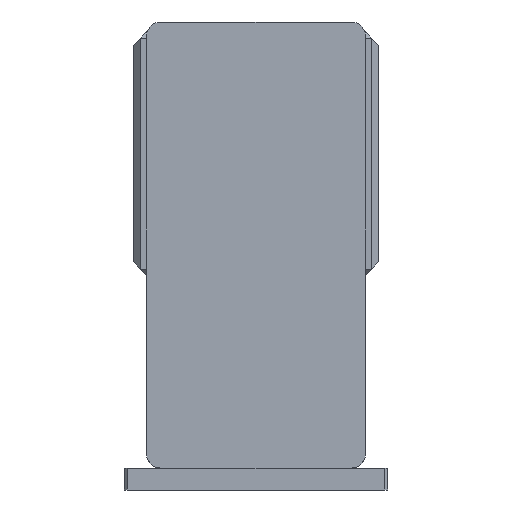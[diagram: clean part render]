
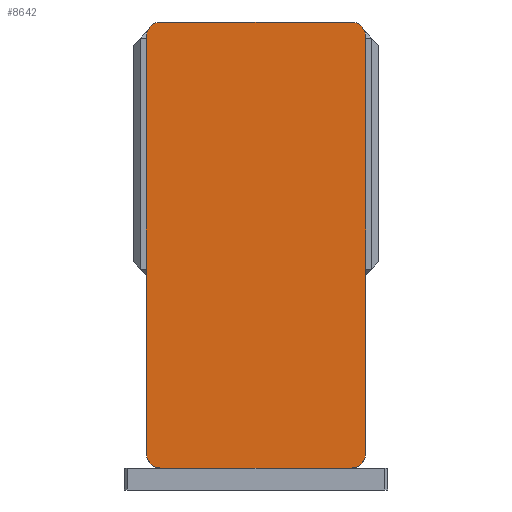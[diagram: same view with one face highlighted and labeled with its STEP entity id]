
A CAD part, left-side view. The second image highlights one B-rep face of the part: STEP entity #8642.
In plain terms, the highlighted planar face has unit normal (-1, 0, 0) as drawn and (0, 0, 1) by its records, which use the part's own axes.
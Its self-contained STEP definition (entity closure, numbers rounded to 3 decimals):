
#319 = CARTESIAN_POINT ( 'NONE',  ( 75., 142.5, 105. ) ) ;
#474 = ORIENTED_EDGE ( 'NONE', *, *, #10151, .T. ) ;
#479 = ORIENTED_EDGE ( 'NONE', *, *, #7839, .T. ) ;
#554 = ORIENTED_EDGE ( 'NONE', *, *, #7234, .T. ) ;
#850 = DIRECTION ( 'NONE',  ( 0., 0., 1. ) ) ;
#915 = VECTOR ( 'NONE', #8945, 1000. ) ;
#1275 = VECTOR ( 'NONE', #8796, 1000. ) ;
#2038 = DIRECTION ( 'NONE',  ( 0., 0., 1. ) ) ;
#2190 = VERTEX_POINT ( 'NONE', #9201 ) ;
#2191 = CARTESIAN_POINT ( 'NONE',  ( -65., -142.5, 105. ) ) ;
#2203 = ORIENTED_EDGE ( 'NONE', *, *, #10451, .T. ) ;
#2256 = ORIENTED_EDGE ( 'NONE', *, *, #10547, .T. ) ;
#2292 = ORIENTED_EDGE ( 'NONE', *, *, #8799, .T. ) ;
#2346 = CIRCLE ( 'NONE', #7860, 10. ) ;
#2707 = VECTOR ( 'NONE', #5500, 1000. ) ;
#2753 = CIRCLE ( 'NONE', #5674, 10. ) ;
#3073 = DIRECTION ( 'NONE',  ( 1., 0., 0. ) ) ;
#3116 = VERTEX_POINT ( 'NONE', #5341 ) ;
#3149 = CARTESIAN_POINT ( 'NONE',  ( 65., -142.5, 105. ) ) ;
#3503 = CARTESIAN_POINT ( 'NONE',  ( 65., -152.5, 105. ) ) ;
#3856 = LINE ( 'NONE', #7934, #1275 ) ;
#4007 = DIRECTION ( 'NONE',  ( 1., 0., 0. ) ) ;
#4228 = DIRECTION ( 'NONE',  ( 0., 0., 1. ) ) ;
#4358 = CIRCLE ( 'NONE', #8346, 10. ) ;
#5024 = VERTEX_POINT ( 'NONE', #6588 ) ;
#5100 = CARTESIAN_POINT ( 'NONE',  ( 65., 152.5, 105. ) ) ;
#5160 = PLANE ( 'NONE',  #9850 ) ;
#5341 = CARTESIAN_POINT ( 'NONE',  ( -75., -142.5, 105. ) ) ;
#5395 = CARTESIAN_POINT ( 'NONE',  ( 75., 152.5, 105. ) ) ;
#5500 = DIRECTION ( 'NONE',  ( -1., 0., 0. ) ) ;
#5518 = LINE ( 'NONE', #6327, #915 ) ;
#5566 = CIRCLE ( 'NONE', #6768, 10. ) ;
#5674 = AXIS2_PLACEMENT_3D ( 'NONE', #9412, #4228, #10230 ) ;
#5713 = VERTEX_POINT ( 'NONE', #3503 ) ;
#5738 = CARTESIAN_POINT ( 'NONE',  ( -75., 142.5, 105. ) ) ;
#5804 = VECTOR ( 'NONE', #7146, 1000. ) ;
#6133 = VERTEX_POINT ( 'NONE', #5100 ) ;
#6327 = CARTESIAN_POINT ( 'NONE',  ( -75., 152.5, 105. ) ) ;
#6345 = ORIENTED_EDGE ( 'NONE', *, *, #9948, .T. ) ;
#6569 = CARTESIAN_POINT ( 'NONE',  ( -65., -152.5, 105. ) ) ;
#6588 = CARTESIAN_POINT ( 'NONE',  ( 75., -142.5, 105. ) ) ;
#6768 = AXIS2_PLACEMENT_3D ( 'NONE', #2191, #8221, #3073 ) ;
#6906 = DIRECTION ( 'NONE',  ( 1., 0., 0. ) ) ;
#7146 = DIRECTION ( 'NONE',  ( 0., 1., 0. ) ) ;
#7216 = CARTESIAN_POINT ( 'NONE',  ( -65., 142.5, 105. ) ) ;
#7234 = EDGE_CURVE ( 'NONE', #5024, #8852, #10117, .T. ) ;
#7315 = LINE ( 'NONE', #9819, #2707 ) ;
#7386 = VERTEX_POINT ( 'NONE', #5738 ) ;
#7607 = EDGE_LOOP ( 'NONE', ( #8516, #6345, #554, #474, #479, #2203, #2292, #2256 ) ) ;
#7703 = FACE_OUTER_BOUND ( 'NONE', #7607, .T. ) ;
#7839 = EDGE_CURVE ( 'NONE', #6133, #2190, #7315, .T. ) ;
#7860 = AXIS2_PLACEMENT_3D ( 'NONE', #3149, #9170, #4007 ) ;
#7934 = CARTESIAN_POINT ( 'NONE',  ( -75., -152.5, 105. ) ) ;
#8084 = DIRECTION ( 'NONE',  ( 1., 0., 0. ) ) ;
#8221 = DIRECTION ( 'NONE',  ( 0., 0., 1. ) ) ;
#8346 = AXIS2_PLACEMENT_3D ( 'NONE', #7216, #2038, #8084 ) ;
#8516 = ORIENTED_EDGE ( 'NONE', *, *, #9673, .T. ) ;
#8642 = ADVANCED_FACE ( 'NONE', ( #7703 ), #5160, .T. ) ;
#8796 = DIRECTION ( 'NONE',  ( 1., 0., 0. ) ) ;
#8799 = EDGE_CURVE ( 'NONE', #7386, #3116, #5518, .T. ) ;
#8852 = VERTEX_POINT ( 'NONE', #319 ) ;
#8945 = DIRECTION ( 'NONE',  ( 0., -1., 0. ) ) ;
#9170 = DIRECTION ( 'NONE',  ( 0., 0., 1. ) ) ;
#9201 = CARTESIAN_POINT ( 'NONE',  ( -65., 152.5, 105. ) ) ;
#9318 = VERTEX_POINT ( 'NONE', #6569 ) ;
#9412 = CARTESIAN_POINT ( 'NONE',  ( 65., 142.5, 105. ) ) ;
#9673 = EDGE_CURVE ( 'NONE', #9318, #5713, #3856, .T. ) ;
#9819 = CARTESIAN_POINT ( 'NONE',  ( -75., 152.5, 105. ) ) ;
#9850 = AXIS2_PLACEMENT_3D ( 'NONE', #11105, #850, #6906 ) ;
#9948 = EDGE_CURVE ( 'NONE', #5713, #5024, #2346, .T. ) ;
#10117 = LINE ( 'NONE', #5395, #5804 ) ;
#10151 = EDGE_CURVE ( 'NONE', #8852, #6133, #2753, .T. ) ;
#10230 = DIRECTION ( 'NONE',  ( 1., 0., 0. ) ) ;
#10451 = EDGE_CURVE ( 'NONE', #2190, #7386, #4358, .T. ) ;
#10547 = EDGE_CURVE ( 'NONE', #3116, #9318, #5566, .T. ) ;
#11105 = CARTESIAN_POINT ( 'NONE',  ( 0., 0., 105. ) ) ;
